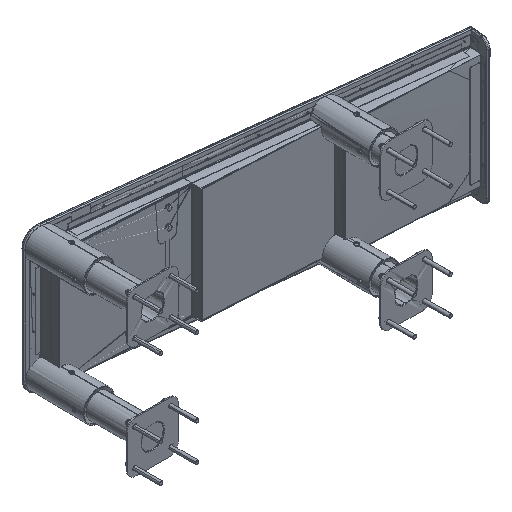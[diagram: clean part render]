
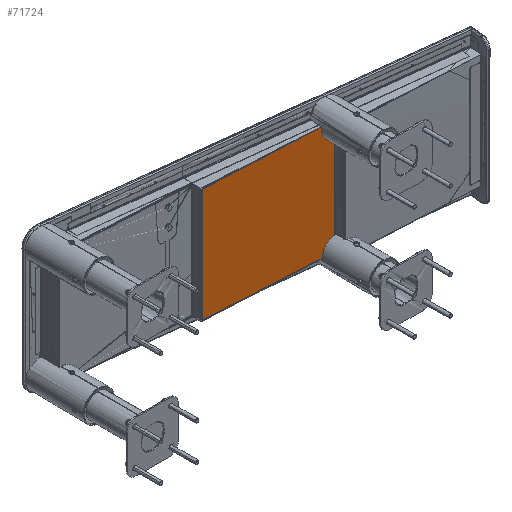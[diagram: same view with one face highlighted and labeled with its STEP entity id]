
A CAD part, isometric view. The second image highlights one B-rep face of the part: STEP entity #71724.
In plain terms, the highlighted planar face has unit normal (0.052, 0.999, 0).
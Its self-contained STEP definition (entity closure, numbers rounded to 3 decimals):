
#1082 = CARTESIAN_POINT ( 'NONE',  ( 840.738, -12.919, 189.953 ) ) ;
#1329 = EDGE_CURVE ( 'NONE', #42697, #25751, #27075, .T. ) ;
#6061 = CARTESIAN_POINT ( 'NONE',  ( 561.83, 0.378, -189. ) ) ;
#13967 = B_SPLINE_CURVE_WITH_KNOTS ( 'NONE', 3,
 ( #56480, #56223, #44716, #69508 ),
 .UNSPECIFIED., .F., .F.,
 ( 4, 4 ),
 ( 0., 1. ),
 .UNSPECIFIED. ) ;
#14212 = ORIENTED_EDGE ( 'NONE', *, *, #41752, .T. ) ;
#17947 = ORIENTED_EDGE ( 'NONE', *, *, #1329, .T. ) ;
#24031 = EDGE_CURVE ( 'NONE', #58821, #58832, #26934, .T. ) ;
#24630 = CARTESIAN_POINT ( 'NONE',  ( 840.428, -14.222, -189. ) ) ;
#25046 = B_SPLINE_CURVE_WITH_KNOTS ( 'NONE', 3,
 ( #27052, #40039, #64859, #27315 ),
 .UNSPECIFIED., .F., .F.,
 ( 4, 4 ),
 ( 0., 1. ),
 .UNSPECIFIED. ) ;
#25172 = CARTESIAN_POINT ( 'NONE',  ( 422.531, 7.679, -189. ) ) ;
#25751 = VERTEX_POINT ( 'NONE', #1082 ) ;
#26934 = B_SPLINE_CURVE_WITH_KNOTS ( 'NONE', 3,
 ( #43218, #62042, #6061, #68018 ),
 .UNSPECIFIED., .F., .F.,
 ( 4, 4 ),
 ( 0., 1. ),
 .UNSPECIFIED. ) ;
#27052 = CARTESIAN_POINT ( 'NONE',  ( 422.531, 7.679, -189. ) ) ;
#27075 = B_SPLINE_CURVE_WITH_KNOTS ( 'NONE', 3,
 ( #73973, #79733, #73702, #36416 ),
 .UNSPECIFIED., .F., .F.,
 ( 4, 4 ),
 ( 0., 1. ),
 .UNSPECIFIED. ) ;
#27315 = CARTESIAN_POINT ( 'NONE',  ( 422.531, 7.679, 189. ) ) ;
#27397 = CARTESIAN_POINT ( 'NONE',  ( 421.583, 7.729, 192. ) ) ;
#27949 = DIRECTION ( 'NONE',  ( 0., 0., -1. ) ) ;
#34742 = FACE_OUTER_BOUND ( 'NONE', #49288, .T. ) ;
#36416 = CARTESIAN_POINT ( 'NONE',  ( 840.428, -14.222, 189. ) ) ;
#39740 = ORIENTED_EDGE ( 'NONE', *, *, #48660, .F. ) ;
#40039 = CARTESIAN_POINT ( 'NONE',  ( 422.531, 7.679, -63. ) ) ;
#41752 = EDGE_CURVE ( 'NONE', #58832, #42697, #25046, .T. ) ;
#42697 = VERTEX_POINT ( 'NONE', #54393 ) ;
#43218 = CARTESIAN_POINT ( 'NONE',  ( 840.428, -14.222, -189. ) ) ;
#44716 = CARTESIAN_POINT ( 'NONE',  ( 840.428, -14.222, 63. ) ) ;
#48660 = EDGE_CURVE ( 'NONE', #58821, #25751, #13967, .T. ) ;
#49288 = EDGE_LOOP ( 'NONE', ( #39740, #63770, #14212, #17947 ) ) ;
#52668 = AXIS2_PLACEMENT_3D ( 'NONE', #27397, #52935, #27949 ) ;
#52935 = DIRECTION ( 'NONE',  ( 0.052, 0.999, 0. ) ) ;
#54393 = CARTESIAN_POINT ( 'NONE',  ( 422.531, 7.679, 189. ) ) ;
#56223 = CARTESIAN_POINT ( 'NONE',  ( 840.428, -14.222, -63. ) ) ;
#56480 = CARTESIAN_POINT ( 'NONE',  ( 840.428, -14.222, -189. ) ) ;
#58821 = VERTEX_POINT ( 'NONE', #24630 ) ;
#58832 = VERTEX_POINT ( 'NONE', #25172 ) ;
#62042 = CARTESIAN_POINT ( 'NONE',  ( 701.129, -6.922, -189. ) ) ;
#63770 = ORIENTED_EDGE ( 'NONE', *, *, #24031, .T. ) ;
#64859 = CARTESIAN_POINT ( 'NONE',  ( 422.531, 7.679, 63. ) ) ;
#64944 = PLANE ( 'NONE',  #52668 ) ;
#68018 = CARTESIAN_POINT ( 'NONE',  ( 422.531, 7.679, -189. ) ) ;
#69508 = CARTESIAN_POINT ( 'NONE',  ( 840.428, -14.222, 189. ) ) ;
#71724 = ADVANCED_FACE ( 'NONE', ( #34742 ), #64944, .T. ) ;
#73702 = CARTESIAN_POINT ( 'NONE',  ( 701.129, -6.922, 189. ) ) ;
#73973 = CARTESIAN_POINT ( 'NONE',  ( 422.531, 7.679, 189. ) ) ;
#79733 = CARTESIAN_POINT ( 'NONE',  ( 561.83, 0.378, 189. ) ) ;
